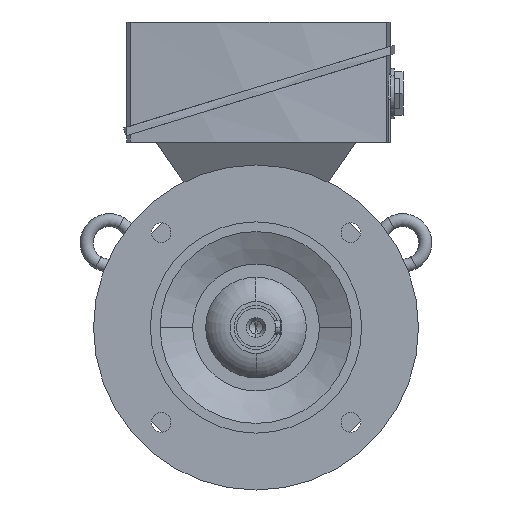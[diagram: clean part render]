
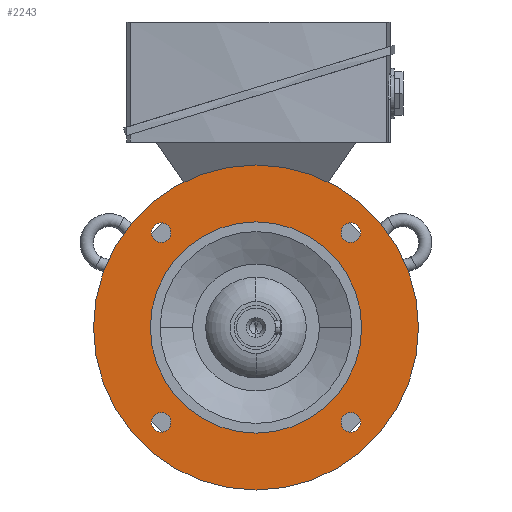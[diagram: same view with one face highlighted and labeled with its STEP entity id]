
A CAD part, left-side view. The second image highlights one B-rep face of the part: STEP entity #2243.
In plain terms, the highlighted planar face has unit normal (-1, 0, 0).
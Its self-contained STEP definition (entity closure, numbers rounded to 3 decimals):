
#2243=ADVANCED_FACE('',(#4535,#4536,#4537,#4538,#4539,#4540),#4541,.T.);
#4535=FACE_BOUND('',#6831,.T.);
#4536=FACE_BOUND('',#6832,.T.);
#4537=FACE_BOUND('',#6833,.T.);
#4538=FACE_BOUND('',#6834,.T.);
#4539=FACE_OUTER_BOUND('',#6835,.T.);
#4540=FACE_BOUND('',#6836,.T.);
#4541=PLANE('',#6837);
#6831=EDGE_LOOP('',(#13925,#13926));
#6832=EDGE_LOOP('',(#13927,#13928));
#6833=EDGE_LOOP('',(#13929,#13930));
#6834=EDGE_LOOP('',(#13931,#13932));
#6835=EDGE_LOOP('',(#13933,#13934));
#6836=EDGE_LOOP('',(#13935,#13936));
#6837=AXIS2_PLACEMENT_3D('',#13937,#13938,#13939);
#13925=ORIENTED_EDGE('',*,*,#16746,.T.);
#13926=ORIENTED_EDGE('',*,*,#14064,.T.);
#13927=ORIENTED_EDGE('',*,*,#16749,.T.);
#13928=ORIENTED_EDGE('',*,*,#14059,.T.);
#13929=ORIENTED_EDGE('',*,*,#16752,.T.);
#13930=ORIENTED_EDGE('',*,*,#14054,.T.);
#13931=ORIENTED_EDGE('',*,*,#16755,.T.);
#13932=ORIENTED_EDGE('',*,*,#14049,.T.);
#13933=ORIENTED_EDGE('',*,*,#14033,.F.);
#13934=ORIENTED_EDGE('',*,*,#16799,.F.);
#13935=ORIENTED_EDGE('',*,*,#14040,.T.);
#13936=ORIENTED_EDGE('',*,*,#16797,.T.);
#13937=CARTESIAN_POINT('',(-34.5,82.5,0.0));
#13938=DIRECTION('',(-1.0,0.0,0.0));
#13939=DIRECTION('',(0.0,-1.0,0.0));
#14033=EDGE_CURVE('',#16880,#16883,#16884,.T.);
#14040=EDGE_CURVE('',#16890,#16894,#16896,.T.);
#14049=EDGE_CURVE('',#16912,#16909,#16913,.T.);
#14054=EDGE_CURVE('',#16921,#16918,#16922,.T.);
#14059=EDGE_CURVE('',#16930,#16927,#16931,.T.);
#14064=EDGE_CURVE('',#16939,#16936,#16940,.T.);
#16746=EDGE_CURVE('',#16936,#16939,#20924,.T.);
#16749=EDGE_CURVE('',#16927,#16930,#20927,.T.);
#16752=EDGE_CURVE('',#16918,#16921,#20930,.T.);
#16755=EDGE_CURVE('',#16909,#16912,#20933,.T.);
#16797=EDGE_CURVE('',#16894,#16890,#20986,.T.);
#16799=EDGE_CURVE('',#16883,#16880,#20988,.T.);
#16880=VERTEX_POINT('',#21251);
#16883=VERTEX_POINT('',#21255);
#16884=CIRCLE('',#21256,100.0);
#16890=VERTEX_POINT('',#21263);
#16894=VERTEX_POINT('',#21268);
#16896=CIRCLE('',#21271,65.0);
#16909=VERTEX_POINT('',#21289);
#16912=VERTEX_POINT('',#21293);
#16913=CIRCLE('',#21294,6.0);
#16918=VERTEX_POINT('',#21300);
#16921=VERTEX_POINT('',#21304);
#16922=CIRCLE('',#21305,6.0);
#16927=VERTEX_POINT('',#21311);
#16930=VERTEX_POINT('',#21315);
#16931=CIRCLE('',#21316,6.0);
#16936=VERTEX_POINT('',#21322);
#16939=VERTEX_POINT('',#21326);
#16940=CIRCLE('',#21327,6.0);
#20924=CIRCLE('',#28399,6.0);
#20927=CIRCLE('',#28402,6.0);
#20930=CIRCLE('',#28405,6.0);
#20933=CIRCLE('',#28408,6.0);
#20986=CIRCLE('',#28501,65.0);
#20988=CIRCLE('',#28503,100.0);
#21251=CARTESIAN_POINT('',(-34.5,100.0,0.0));
#21255=CARTESIAN_POINT('',(-34.5,-100.0,0.));
#21256=AXIS2_PLACEMENT_3D('',#28589,#28590,#28591);
#21263=CARTESIAN_POINT('',(-34.5,65.0,0.0));
#21268=CARTESIAN_POINT('',(-34.5,-65.0,0.));
#21271=AXIS2_PLACEMENT_3D('',#28601,#28602,#28603);
#21289=CARTESIAN_POINT('',(-34.5,-62.579,62.579));
#21293=CARTESIAN_POINT('',(-34.5,-54.094,54.094));
#21294=AXIS2_PLACEMENT_3D('',#28617,#28618,#28619);
#21300=CARTESIAN_POINT('',(-34.5,62.579,62.579));
#21304=CARTESIAN_POINT('',(-34.5,54.094,54.094));
#21305=AXIS2_PLACEMENT_3D('',#28625,#28626,#28627);
#21311=CARTESIAN_POINT('',(-34.5,62.579,-62.579));
#21315=CARTESIAN_POINT('',(-34.5,54.094,-54.094));
#21316=AXIS2_PLACEMENT_3D('',#28633,#28634,#28635);
#21322=CARTESIAN_POINT('',(-34.5,-62.579,-62.579));
#21326=CARTESIAN_POINT('',(-34.5,-54.094,-54.094));
#21327=AXIS2_PLACEMENT_3D('',#28641,#28642,#28643);
#28399=AXIS2_PLACEMENT_3D('',#31625,#31626,#31627);
#28402=AXIS2_PLACEMENT_3D('',#31631,#31632,#31633);
#28405=AXIS2_PLACEMENT_3D('',#31637,#31638,#31639);
#28408=AXIS2_PLACEMENT_3D('',#31643,#31644,#31645);
#28501=AXIS2_PLACEMENT_3D('',#31679,#31680,#31681);
#28503=AXIS2_PLACEMENT_3D('',#31682,#31683,#31684);
#28589=CARTESIAN_POINT('',(-34.5,0.0,0.0));
#28590=DIRECTION('',(1.0,0.0,0.0));
#28591=DIRECTION('',(0.0,1.0,0.0));
#28601=CARTESIAN_POINT('',(-34.5,0.0,0.0));
#28602=DIRECTION('',(1.0,0.0,0.0));
#28603=DIRECTION('',(0.0,1.0,0.0));
#28617=CARTESIAN_POINT('',(-34.5,-58.336,58.336));
#28618=DIRECTION('',(1.0,0.0,-0.0));
#28619=DIRECTION('',(0.0,-0.707,0.707));
#28625=CARTESIAN_POINT('',(-34.5,58.336,58.336));
#28626=DIRECTION('',(1.0,0.0,-0.0));
#28627=DIRECTION('',(0.0,0.707,0.707));
#28633=CARTESIAN_POINT('',(-34.5,58.336,-58.336));
#28634=DIRECTION('',(1.0,-0.0,0.0));
#28635=DIRECTION('',(0.0,0.707,-0.707));
#28641=CARTESIAN_POINT('',(-34.5,-58.336,-58.336));
#28642=DIRECTION('',(1.0,0.0,0.0));
#28643=DIRECTION('',(0.0,-0.707,-0.707));
#31625=CARTESIAN_POINT('',(-34.5,-58.336,-58.336));
#31626=DIRECTION('',(1.0,0.0,0.0));
#31627=DIRECTION('',(0.0,-0.707,-0.707));
#31631=CARTESIAN_POINT('',(-34.5,58.336,-58.336));
#31632=DIRECTION('',(1.0,-0.0,0.0));
#31633=DIRECTION('',(0.0,0.707,-0.707));
#31637=CARTESIAN_POINT('',(-34.5,58.336,58.336));
#31638=DIRECTION('',(1.0,0.0,-0.0));
#31639=DIRECTION('',(0.0,0.707,0.707));
#31643=CARTESIAN_POINT('',(-34.5,-58.336,58.336));
#31644=DIRECTION('',(1.0,0.0,-0.0));
#31645=DIRECTION('',(0.0,-0.707,0.707));
#31679=CARTESIAN_POINT('',(-34.5,0.0,0.0));
#31680=DIRECTION('',(1.0,0.0,0.0));
#31681=DIRECTION('',(0.0,1.0,0.0));
#31682=CARTESIAN_POINT('',(-34.5,0.0,0.0));
#31683=DIRECTION('',(1.0,0.0,0.0));
#31684=DIRECTION('',(0.0,1.0,0.0));
